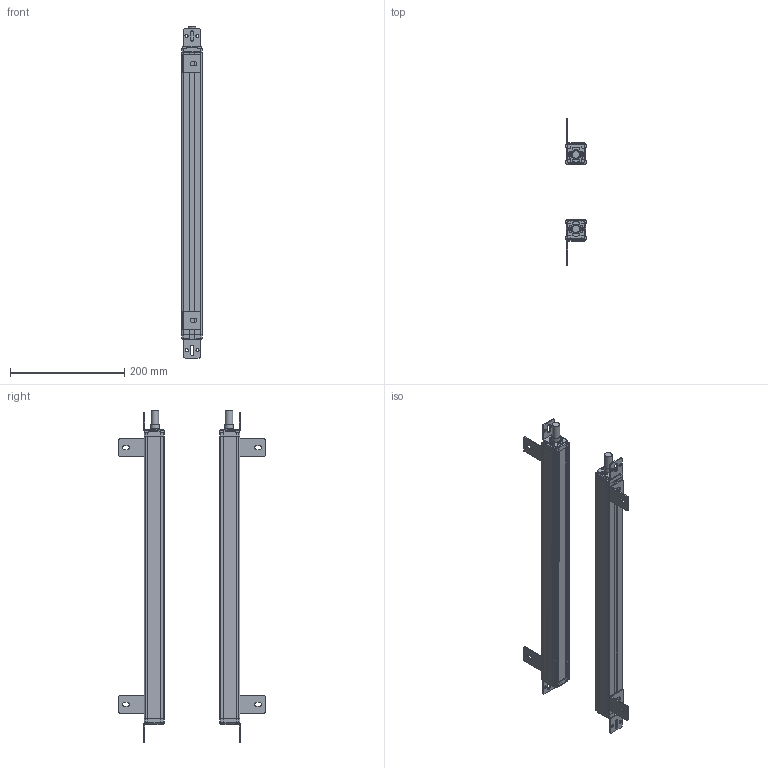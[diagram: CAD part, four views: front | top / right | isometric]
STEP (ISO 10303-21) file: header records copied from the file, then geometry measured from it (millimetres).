
FILE_DESCRIPTION(/* description */ (''),/* implementation_level */ '2;1');
FILE_NAME(/* name */ '1240_35X35.stp',/* time_stamp */ '2023-09-18T15:52:03+08:00',/* author */ (''),/* organization */ (''),/* preprocessor_version */ 'ST-DEVELOPER v16.7',/* originating_system */ 'SIEMENS PLM Software NX 12.0',/* authorisation */ '');
FILE_SCHEMA (('AP203_CONFIGURATION_CONTROLLED_3D_DESIGN_OF_MECHANICAL_PARTS_AND_ASSEMBLIES_MIM_LF { 1 0 10303 403 2 1 2}'));
Length unit declared in the file: millimetre
Products named in the file (1): 1240_35X35_stp
Bounding box: 35.41 x 258.01 x 581.6 mm (x, y, z)
Volume: 527438.8 mm3; surface area: 403491.1 mm2
Topology: 28 solids, 28 shells, 1182 faces, 3360 edges, 2260 vertices
Faces by surface type: plane 658, cylinder 464, cone 60
Full cylindrical faces by diameter (mm): 3.2 x8, 6 x24, 13 x2, 14.4 x2, 15 x2
Entity records: 39055 total; most frequent: DIRECTION 6832, CARTESIAN_POINT 6745, ORIENTED_EDGE 6612, EDGE_CURVE 3306, AXIS2_PLACEMENT_3D 2347, VERTEX_POINT 2244, LINE 2138, VECTOR 2138
